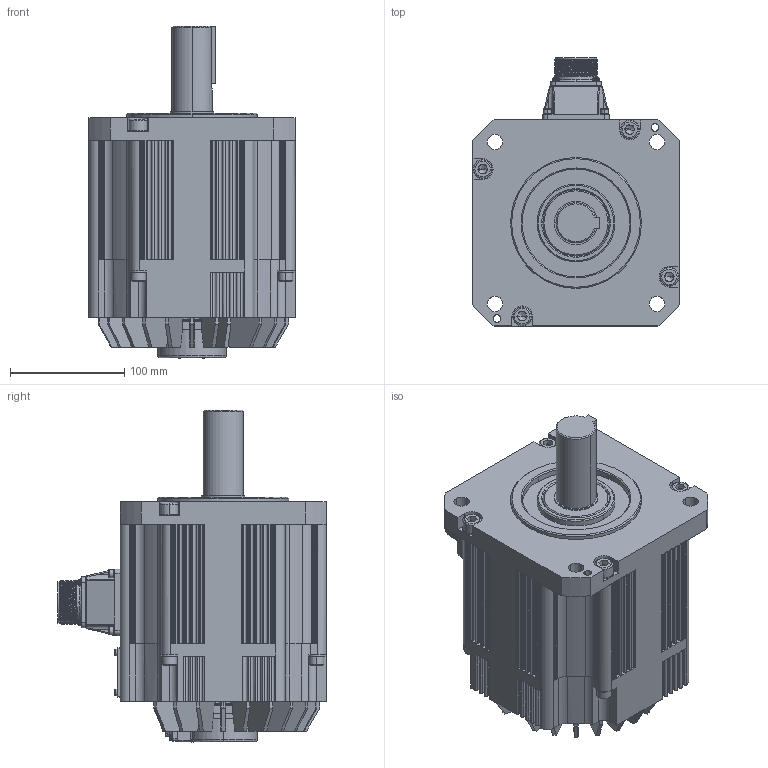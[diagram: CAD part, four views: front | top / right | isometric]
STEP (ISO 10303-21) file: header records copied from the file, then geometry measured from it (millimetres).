
FILE_DESCRIPTION (( 'STEP AP203' ), '1' );
FILE_NAME ('TSM3609N2375E721.STEP', '2018-07-04T09:09:50', ( '' ), ( '' ), 'SwSTEP 2.0', 'SolidWorks 2017', '' );
FILE_SCHEMA (( 'CONFIG_CONTROL_DESIGN' ));
Products named in the file (1): TSM3609N2375E721
Bounding box: 180 x 234.5 x 290 mm (x, y, z)
Volume: 5099745.6 mm3; surface area: 326456.2 mm2
Topology: 1 solids, 24 shells, 2703 faces, 7155 edges, 4587 vertices
Faces by surface type: plane 1451, cylinder 712, bspline 380, cone 138, torus 22
Entity records: 104640 total; most frequent: CARTESIAN_POINT 41023, ORIENTED_EDGE 14194, DIRECTION 11676, EDGE_CURVE 7097, VERTEX_POINT 4587, LINE 4340, VECTOR 4340, AXIS2_PLACEMENT_3D 3668
